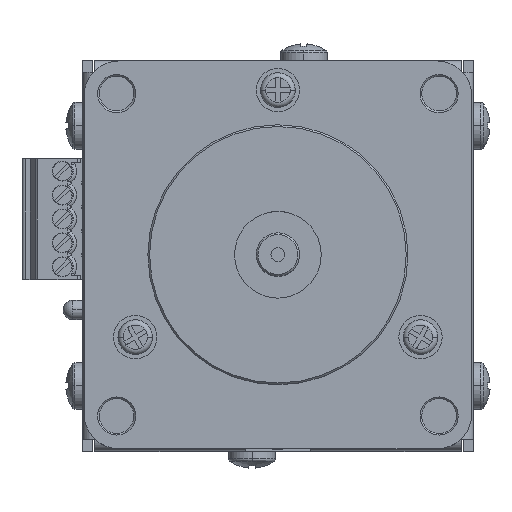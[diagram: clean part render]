
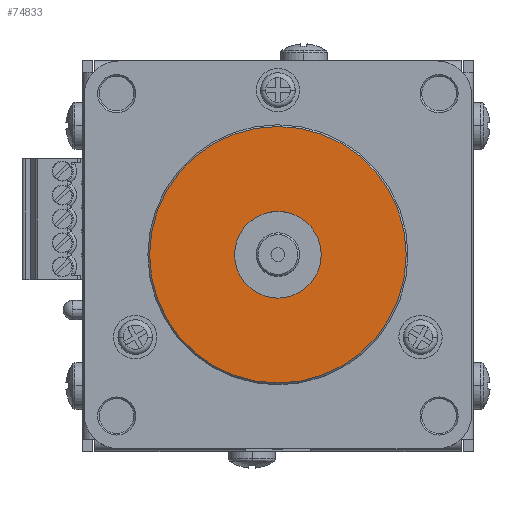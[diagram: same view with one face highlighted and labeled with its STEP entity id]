
A CAD part, top view. The second image highlights one B-rep face of the part: STEP entity #74833.
In plain terms, the highlighted planar face has unit normal (0, 0, 1).
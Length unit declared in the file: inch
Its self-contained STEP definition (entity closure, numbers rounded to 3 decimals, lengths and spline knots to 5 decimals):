
#1769 = EDGE_CURVE ( 'NONE', #121884, #145984, #86966, .T. ) ;
#3358 = CARTESIAN_POINT ( 'NONE',  ( 0., 0., 0.06 ) ) ;
#15055 = PLANE ( 'NONE',  #110332 ) ;
#15588 = DIRECTION ( 'NONE',  ( 1., 0., 0. ) ) ;
#16709 = CARTESIAN_POINT ( 'NONE',  ( 0., 0., 0.06 ) ) ;
#17833 = ORIENTED_EDGE ( 'NONE', *, *, #26643, .F. ) ;
#20023 = DIRECTION ( 'NONE',  ( 0., 0., 1. ) ) ;
#20099 = CIRCLE ( 'NONE', #57407, 0.25 ) ;
#23584 = FACE_BOUND ( 'NONE', #151840, .T. ) ;
#26643 = EDGE_CURVE ( 'NONE', #145984, #121884, #20099, .T. ) ;
#29100 = DIRECTION ( 'NONE',  ( 1., 0., 0. ) ) ;
#30401 = DIRECTION ( 'NONE',  ( 0., 0., 1. ) ) ;
#33894 = CARTESIAN_POINT ( 'NONE',  ( 0., 0., 0.06 ) ) ;
#42420 = VERTEX_POINT ( 'NONE', #88266 ) ;
#44437 = CARTESIAN_POINT ( 'NONE',  ( 0.74, 0., 0.06 ) ) ;
#46213 = DIRECTION ( 'NONE',  ( 1., 0., 0. ) ) ;
#50528 = CARTESIAN_POINT ( 'NONE',  ( 0.25, 0., 0.06 ) ) ;
#54953 = ORIENTED_EDGE ( 'NONE', *, *, #118112, .T. ) ;
#57407 = AXIS2_PLACEMENT_3D ( 'NONE', #93452, #20023, #105741 ) ;
#57896 = AXIS2_PLACEMENT_3D ( 'NONE', #33894, #119603, #46213 ) ;
#58022 = CIRCLE ( 'NONE', #96993, 0.74 ) ;
#63197 = CARTESIAN_POINT ( 'NONE',  ( -0.25, 0., 0.06 ) ) ;
#64506 = CIRCLE ( 'NONE', #70035, 0.74 ) ;
#70035 = AXIS2_PLACEMENT_3D ( 'NONE', #16709, #102421, #29100 ) ;
#74833 = ADVANCED_FACE ( 'NONE', ( #149987, #23584 ), #15055, .T. ) ;
#84763 = EDGE_CURVE ( 'NONE', #117802, #42420, #64506, .T. ) ;
#86966 = CIRCLE ( 'NONE', #57896, 0.25 ) ;
#88266 = CARTESIAN_POINT ( 'NONE',  ( -0.74, 0., 0.06 ) ) ;
#88986 = DIRECTION ( 'NONE',  ( 0., 0., 1. ) ) ;
#93452 = CARTESIAN_POINT ( 'NONE',  ( 0., 0., 0.06 ) ) ;
#95866 = EDGE_LOOP ( 'NONE', ( #54953, #121221 ) ) ;
#96993 = AXIS2_PLACEMENT_3D ( 'NONE', #103721, #30401, #116068 ) ;
#102421 = DIRECTION ( 'NONE',  ( 0., 0., 1. ) ) ;
#103721 = CARTESIAN_POINT ( 'NONE',  ( 0., 0., 0.06 ) ) ;
#105741 = DIRECTION ( 'NONE',  ( 1., 0., 0. ) ) ;
#110332 = AXIS2_PLACEMENT_3D ( 'NONE', #3358, #88986, #15588 ) ;
#116068 = DIRECTION ( 'NONE',  ( 1., 0., 0. ) ) ;
#117802 = VERTEX_POINT ( 'NONE', #44437 ) ;
#118112 = EDGE_CURVE ( 'NONE', #42420, #117802, #58022, .T. ) ;
#119603 = DIRECTION ( 'NONE',  ( 0., 0., 1. ) ) ;
#121221 = ORIENTED_EDGE ( 'NONE', *, *, #84763, .T. ) ;
#121884 = VERTEX_POINT ( 'NONE', #50528 ) ;
#128588 = ORIENTED_EDGE ( 'NONE', *, *, #1769, .F. ) ;
#145984 = VERTEX_POINT ( 'NONE', #63197 ) ;
#149987 = FACE_OUTER_BOUND ( 'NONE', #95866, .T. ) ;
#151840 = EDGE_LOOP ( 'NONE', ( #17833, #128588 ) ) ;
